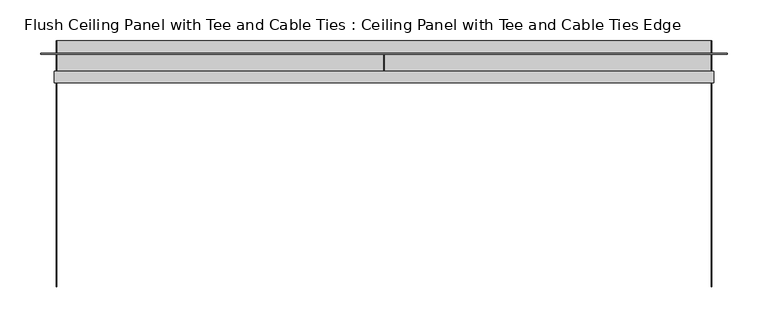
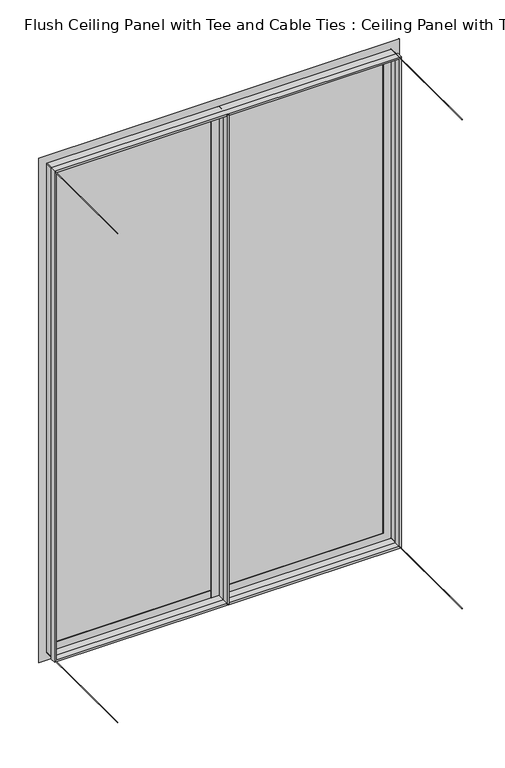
"""IFC4 building model written with IfcOpenShell, lengths in millimetres: plate geometry, Flush Ceiling Panel with Tee and Cable Ties : Ceiling Panel with Tee and Cable Ties Edge."""

import ifcopenshell
import ifcopenshell.guid

model = None  # the IFC model being written
_history = None  # IfcOwnerHistory: only IFC2X3 demands one
_inside = {}  # id of a spatial element -> (the spatial element, [elements in it])
_under = {}  # id of a project, library or spatial element -> (it, [spatial elements below it])
_declared = {}  # id of a project -> (the project, [libraries it declares])
_typed = {}  # id of a type object -> (the type object, [elements of that type])
_made_of = {}  # id of a material, layer set ... -> (it, [elements and type objects made of it])


def new_model(schema):
    """Start an empty IFC model of exactly this schema.

    Asked for "IFC4X3", IfcOpenShell would pick the latest addendum, in which some entities
    have other attributes; the version numbers below select the first issue.
    IFC2X3 requires an IfcOwnerHistory on every rooted entity: one is made here for all.
    """
    global model, _history
    if schema == "IFC4X3":
        model = ifcopenshell.file(schema_version=(4, 3, 0, 0))
    else:
        model = ifcopenshell.file(schema=schema)
    _inside.clear()
    _under.clear()
    _declared.clear()
    _typed.clear()
    _made_of.clear()
    _history = None
    if model.schema == "IFC2X3":
        org = make("IfcOrganization", Name="unknown")
        user = make(
            "IfcPersonAndOrganization",
            ThePerson=make("IfcPerson", FamilyName="unknown"),
            TheOrganization=org,
        )
        app = make(
            "IfcApplication",
            ApplicationDeveloper=org,
            Version="unknown",
            ApplicationFullName="unknown",
            ApplicationIdentifier="unknown",
        )
        _history = make(
            "IfcOwnerHistory",
            OwningUser=user,
            OwningApplication=app,
            ChangeAction="ADDED",
            CreationDate=0,
        )
    return model


def make(cls, **values):
    """One entity of the class cls with the attributes given. An attribute that is None is left unset."""
    return model.create_entity(
        cls, **{name: value for name, value in values.items() if value is not None}
    )


def rooted(cls, **values):
    """An entity with a GlobalId (a new one), such as an element, a storey or a relation."""
    return make(cls, GlobalId=ifcopenshell.guid.new(), OwnerHistory=_history, **values)


def si_unit(unit_type, name, prefix=None):
    """IfcSIUnit, for example si_unit("LENGTHUNIT", "METRE", prefix="MILLI")."""
    return make("IfcSIUnit", UnitType=unit_type, Prefix=prefix, Name=name)


def assignment(units):
    """IfcUnitAssignment: the units of a project."""
    return None if units is None else make("IfcUnitAssignment", Units=units)


def point(xyz):
    """IfcCartesianPoint."""
    return None if xyz is None else make("IfcCartesianPoint", Coordinates=xyz)


def direction(xyz):
    """IfcDirection."""
    return None if xyz is None else make("IfcDirection", DirectionRatios=xyz)


def frame(location, z_axis=None, x_axis=None):
    """IfcAxis2Placement3D, a coordinate frame: its origin and axes. An axis left out is left unset."""
    return make(
        "IfcAxis2Placement3D",
        Location=point(location),
        Axis=direction(z_axis),
        RefDirection=direction(x_axis),
    )


def frame_2d(location, x_axis=None):
    """IfcAxis2Placement2D, a coordinate frame in the plane: its origin and x axis."""
    return make(
        "IfcAxis2Placement2D", Location=point(location), RefDirection=direction(x_axis)
    )


def origin():
    """The frame at (0, 0, 0) with its axes left unset."""
    return frame((0.0, 0.0, 0.0))


def origin_with_axes():
    """The frame at (0, 0, 0) with the z axis (0, 0, 1) and the x axis (1, 0, 0) written out."""
    return frame((0.0, 0.0, 0.0), z_axis=(0.0, 0.0, 1.0), x_axis=(1.0, 0.0, 0.0))


def place(relative_to, where):
    """IfcLocalPlacement: puts the frame where relative to a parent placement (None: the world)."""
    return make(
        "IfcLocalPlacement", PlacementRelTo=relative_to, RelativePlacement=where
    )


def context(
    kind, dimensions, precision=None, world=None, true_north=None, identifier=None
):
    """IfcGeometricRepresentationContext, for example the 3D "Model" context."""
    return make(
        "IfcGeometricRepresentationContext",
        ContextIdentifier=identifier,
        ContextType=kind,
        CoordinateSpaceDimension=dimensions,
        Precision=precision,
        WorldCoordinateSystem=world,
        TrueNorth=true_north,
    )


def project(units=None, contexts=None):
    """IfcProject with its units and contexts."""
    return rooted(
        "IfcProject",
        Name="project",
        RepresentationContexts=contexts,
        UnitsInContext=assignment(units),
    )


def spatial(cls, under=None, at=None, **own):
    """A site, building, storey or space (cls), placed at a placement, below another one or the project."""
    s = rooted(cls, ObjectPlacement=at, **own)
    if under is not None:
        _under.setdefault(under.id(), (under, []))[1].append(s)
    return s


def polyline(points):
    """IfcPolyline through the points."""
    return make("IfcPolyline", Points=[point(p) for p in points])


def circle_curve(where, radius):
    """IfcCircle in the frame where."""
    return make("IfcCircle", Position=where, Radius=radius)


def trimmed(basis, trim1, trim2, sense, master):
    """IfcTrimmedCurve: the piece of a basis curve between two trims."""
    return make(
        "IfcTrimmedCurve",
        BasisCurve=basis,
        Trim1=trim1,
        Trim2=trim2,
        SenseAgreement=sense,
        MasterRepresentation=master,
    )


def segment(curve, same_sense, transition):
    """IfcCompositeCurveSegment."""
    return make(
        "IfcCompositeCurveSegment",
        Transition=transition,
        SameSense=same_sense,
        ParentCurve=curve,
    )


def composite_curve(segments, self_intersect=None):
    """IfcCompositeCurve: segments joined end to end."""
    return make("IfcCompositeCurve", Segments=segments, SelfIntersect=self_intersect)


def outline(outer, holes=None, kind="AREA"):
    """IfcArbitraryClosedProfileDef: a profile drawn as a closed curve; with holes, ...WithVoids."""
    if holes is None:
        return make("IfcArbitraryClosedProfileDef", ProfileType=kind, OuterCurve=outer)
    return make(
        "IfcArbitraryProfileDefWithVoids",
        ProfileType=kind,
        OuterCurve=outer,
        InnerCurves=holes,
    )


def extrude(swept, where, along, depth):
    """IfcExtrudedAreaSolid: the profile swept, set in the frame where, extruded along a direction by depth."""
    return make(
        "IfcExtrudedAreaSolid",
        SweptArea=swept,
        Position=where,
        ExtrudedDirection=direction(along),
        Depth=depth,
    )


def faces_of(points, faces, orient=None, outer=None):
    """IfcFace entities. A face is a list of loops; a loop is a list of indices into points, from 0.

    orient and outer hold one flag for each loop. By default every Orientation is true, the
    first loop of a face is its IfcFaceOuterBound and the others are IfcFaceBound.
    """
    made = []
    for i, loops in enumerate(faces):
        bounds = []
        for j, loop in enumerate(loops):
            is_outer = j == 0 if outer is None else outer[i][j]
            bounds.append(
                make(
                    "IfcFaceOuterBound" if is_outer else "IfcFaceBound",
                    Bound=make("IfcPolyLoop", Polygon=[points[k] for k in loop]),
                    Orientation=True if orient is None else orient[i][j],
                )
            )
        made.append(make("IfcFace", Bounds=bounds))
    return made


def faceted_brep(points, faces, orient=None, outer=None, voids=None):
    """IfcFacetedBrep: a solid bounded by flat faces; with voids (closed shells), ...WithVoids."""
    shared = [point(p) for p in points]
    hull = make("IfcClosedShell", CfsFaces=faces_of(shared, faces, orient, outer))
    if voids is None:
        return make("IfcFacetedBrep", Outer=hull)
    return make(
        "IfcFacetedBrepWithVoids",
        Outer=hull,
        Voids=[
            make(cls, CfsFaces=faces_of(shared, fs, o, b)) for cls, fs, o, b in voids
        ],
    )


def shape(context_of_items, identifier, shape_type, items):
    """IfcShapeRepresentation: the items that make up one representation, for example the "Body"."""
    return make(
        "IfcShapeRepresentation",
        ContextOfItems=context_of_items,
        RepresentationIdentifier=identifier,
        RepresentationType=shape_type,
        Items=items,
    )


def source(mapping_origin, context_of_items, identifier, shape_type, items):
    """IfcRepresentationMap: a shape defined once, which mapped items show again and again."""
    return make(
        "IfcRepresentationMap",
        MappingOrigin=mapping_origin,
        MappedRepresentation=shape(context_of_items, identifier, shape_type, items),
    )


def transform(
    local_origin,
    x_axis=None,
    y_axis=None,
    z_axis=None,
    scale=None,
    scale2=None,
    scale3=None,
    uniform=True,
):
    """IfcCartesianTransformationOperator3D, or its non-uniform kind. x_axis, y_axis, z_axis: its Axis1, 2, 3."""
    if uniform:
        return make(
            "IfcCartesianTransformationOperator3D",
            Axis1=direction(x_axis),
            Axis2=direction(y_axis),
            LocalOrigin=point(local_origin),
            Scale=scale,
            Axis3=direction(z_axis),
        )
    return make(
        "IfcCartesianTransformationOperator3DnonUniform",
        Axis1=direction(x_axis),
        Axis2=direction(y_axis),
        LocalOrigin=point(local_origin),
        Scale=scale,
        Axis3=direction(z_axis),
        Scale2=scale2,
        Scale3=scale3,
    )


def mapped(mapping_source, mapping_target):
    """IfcMappedItem: shows the shape of a source again, moved by a transform."""
    return make(
        "IfcMappedItem", MappingSource=mapping_source, MappingTarget=mapping_target
    )


def made_of(thing, what):
    """Note that an element or type object is made of a material, layer set ...; save() writes the relation."""
    if what is not None:
        _made_of.setdefault(what.id(), (what, []))[1].append(thing)
    return thing


def element(
    cls,
    number,
    at=None,
    inside=None,
    cuts=None,
    type_object=None,
    material=None,
    context=None,
    identifier="Body",
    shape_type=None,
    held_by="IfcProductDefinitionShape",
    body=None,
    shapes=None,
    **own,
):
    """One element of the class cls, such as IfcWall. Its Tag is "e" and its number.

    at: its placement. inside: the storey or other place that contains it. cuts: it is an
    opening in that element (IfcRelVoidsElement). A single representation is given by context,
    identifier, shape_type and body (its items); several are given by shapes. held_by: the class
    of the entity that holds the representations. save() writes the other relations.
    """
    e = rooted(cls, Tag="e%d" % number, ObjectPlacement=at, **own)
    if body is not None:
        shapes = [shape(context, identifier, shape_type, body)]
    if shapes is not None:
        e.Representation = make(held_by, Representations=shapes)
    if inside is not None:
        _inside.setdefault(inside.id(), (inside, []))[1].append(e)
    if cuts is not None:
        rooted(
            "IfcRelVoidsElement", RelatingBuildingElement=cuts, RelatedOpeningElement=e
        )
    if type_object is not None:
        _typed.setdefault(type_object.id(), (type_object, []))[1].append(e)
    return made_of(e, material)


def aggregate(whole, parts):
    """IfcRelAggregates: a whole, such as a stair, and the parts it consists of."""
    return rooted("IfcRelAggregates", RelatingObject=whole, RelatedObjects=parts)


def save(model, path):
    """Write the relations noted so far, then the file.

    IfcRelAggregates (storeys below a building ...), IfcRelContainedInSpatialStructure (elements
    in a storey), IfcRelDefinesByType, IfcRelAssociatesMaterial and IfcRelDeclares: one each for
    every whole, place, type object, material and project.
    """
    for whole, parts in _under.values():
        aggregate(whole, parts)
    for where, things in _inside.values():
        rooted(
            "IfcRelContainedInSpatialStructure",
            RelatedElements=things,
            RelatingStructure=where,
        )
    for kind, things in _typed.values():
        rooted("IfcRelDefinesByType", RelatedObjects=things, RelatingType=kind)
    for what, things in _made_of.values():
        rooted("IfcRelAssociatesMaterial", RelatedObjects=things, RelatingMaterial=what)
    for by, libraries in _declared.values():
        rooted("IfcRelDeclares", RelatingContext=by, RelatedDefinitions=libraries)
    model.write(path)


def flush_ceiling_panel_with_tee_and_cable_ties_ceiling_panel_486cffb7(model_context):
    return source(origin(), model_context, "Body", "SolidModel", [
        extrude(outline(composite_curve([segment(trimmed(circle_curve(frame_2d((1200.0, 399.9999998)), 0.5), [point((1200.0, 400.4999998))], [point((1200.0, 399.4999998))], False, "CARTESIAN"), True, "CONTINUOUS"), segment(trimmed(circle_curve(frame_2d((1200.0, 399.9999998)), 0.5), [point((1200.0, 399.4999998))], [point((1200.0, 400.4999998))], False, "CARTESIAN"), True, "CONTINUOUS")], self_intersect=False)), frame((0.0, -300.0, 0.0), z_axis=(0.0, 1.0, 0.0), x_axis=(0.0, 0.0, 1.0)), (0.0, 0.0, 1.0), 300.0),
        extrude(outline(composite_curve([segment(trimmed(circle_curve(frame_2d((1200.0, -399.9999998)), 0.5), [point((1200.0, -399.4999998))], [point((1200.0, -400.4999998))], False, "CARTESIAN"), True, "CONTINUOUS"), segment(trimmed(circle_curve(frame_2d((1200.0, -399.9999998)), 0.5), [point((1200.0, -400.4999998))], [point((1200.0, -399.4999998))], False, "CARTESIAN"), True, "CONTINUOUS")], self_intersect=False)), frame((0.0, -300.0, 0.0), z_axis=(0.0, 1.0, 0.0), x_axis=(0.0, 0.0, 1.0)), (0.0, 0.0, 1.0), 300.0),
        extrude(outline(composite_curve([segment(trimmed(circle_curve(frame_2d((0.0, 399.9999998)), 0.5), [point((0.0, 400.4999998))], [point((0.0, 399.4999998))], False, "CARTESIAN"), True, "CONTINUOUS"), segment(trimmed(circle_curve(frame_2d((0.0, 399.9999998)), 0.5), [point((0.0, 399.4999998))], [point((0.0, 400.4999998))], False, "CARTESIAN"), True, "CONTINUOUS")], self_intersect=False)), frame((0.0, -300.0, 0.0), z_axis=(0.0, 1.0, 0.0), x_axis=(0.0, 0.0, 1.0)), (0.0, 0.0, 1.0), 300.0),
        extrude(outline(composite_curve([segment(trimmed(circle_curve(frame_2d((0.0, -399.9999998)), 0.5), [point((0.0, -399.4999998))], [point((0.0, -400.4999998))], False, "CARTESIAN"), True, "CONTINUOUS"), segment(trimmed(circle_curve(frame_2d((0.0, -399.9999998)), 0.5), [point((0.0, -400.4999998))], [point((0.0, -399.4999998))], False, "CARTESIAN"), True, "CONTINUOUS")], self_intersect=False)), frame((0.0, -300.0, 0.0), z_axis=(0.0, 1.0, 0.0), x_axis=(0.0, 0.0, 1.0)), (0.0, 0.0, 1.0), 300.0),
        extrude(outline(polyline([(19.0, -15.0), (19.0, -16.0), (0.5, -16.0), (0.5, -37.0), (2.5, -37.0), (2.5, -51.0), (-2.5, -51.0), (-2.5, -37.0), (-0.5, -37.0), (-0.5, -16.0), (-19.0, -16.0), (-19.0, -15.0), (19.0, -15.0)])), origin_with_axes(), (0.0, 0.0, 1.0), 1200.0),
        faceted_brep([(380.9999998, -16.0, 1181.0), (380.9999998, -15.0, 1181.0), (380.9999998, -15.0, 19.0), (380.9999998, -16.0, 19.0), (399.4999998, -37.0, 1199.5), (399.4999998, -16.0, 1199.5), (399.4999998, -16.0, 0.5), (399.4999998, -37.0, 0.5), (397.4999998, -51.0, 1197.5), (397.4999998, -37.0, 1197.5), (397.4999998, -37.0, 2.5), (397.4999998, -51.0, 2.5), (402.4999998, -37.0, 1202.5), (402.4999998, -51.0, 1202.5), (402.4999998, -51.0, -2.5), (402.4999998, -37.0, -2.5), (400.4999998, -16.0, 1200.5), (400.4999998, -37.0, 1200.5), (400.4999998, -37.0, -0.5), (400.4999998, -16.0, -0.5), (418.9999998, -15.0, 1219.0), (418.9999998, -16.0, 1219.0), (418.9999998, -16.0, -19.0), (418.9999998, -15.0, -19.0), (-380.9999998, -15.0, 19.0), (-380.9999998, -16.0, 19.0), (-399.4999998, -16.0, 0.5), (-399.4999998, -37.0, 0.5), (-397.4999998, -37.0, 2.5), (-397.4999998, -51.0, 2.5), (-402.4999998, -51.0, -2.5), (-402.4999998, -37.0, -2.5), (-400.4999998, -37.0, -0.5), (-400.4999998, -16.0, -0.5), (-418.9999998, -16.0, -19.0), (-418.9999998, -15.0, -19.0), (-380.9999998, -15.0, 1181.0), (-380.9999998, -16.0, 1181.0), (-399.4999998, -16.0, 1199.5), (-399.4999998, -37.0, 1199.5), (-397.4999998, -37.0, 1197.5), (-397.4999998, -51.0, 1197.5), (-402.4999998, -51.0, 1202.5), (-402.4999998, -37.0, 1202.5), (-400.4999998, -37.0, 1200.5), (-400.4999998, -16.0, 1200.5), (-418.9999998, -16.0, 1219.0), (-418.9999998, -15.0, 1219.0)], [[[0, 1, 2, 3]], [[4, 5, 6, 7]], [[8, 9, 10, 11]], [[12, 13, 14, 15]], [[16, 17, 18, 19]], [[20, 21, 22, 23]], [[3, 2, 24, 25]], [[7, 6, 26, 27]], [[11, 10, 28, 29]], [[15, 14, 30, 31]], [[19, 18, 32, 33]], [[23, 22, 34, 35]], [[25, 24, 36, 37]], [[27, 26, 38, 39]], [[29, 28, 40, 41]], [[31, 30, 42, 43]], [[33, 32, 44, 45]], [[35, 34, 46, 47]], [[23, 35, 47, 20], [1, 36, 24, 2]], [[37, 36, 1, 0]], [[5, 38, 26, 6], [3, 25, 37, 0]], [[39, 38, 5, 4]], [[7, 27, 39, 4], [9, 40, 28, 10]], [[41, 40, 9, 8]], [[13, 42, 30, 14], [11, 29, 41, 8]], [[43, 42, 13, 12]], [[15, 31, 43, 12], [17, 44, 32, 18]], [[45, 44, 17, 16]], [[21, 46, 34, 22], [19, 33, 45, 16]], [[47, 46, 21, 20]]]),
        extrude(outline(polyline([(399.9999998, -15.0), (-399.9999998, -15.0), (-399.9999998, 0.0), (399.9999998, 0.0), (399.9999998, -15.0)])), origin_with_axes(), (0.0, 0.0, 1.0), 1200.0),
    ])


if __name__ == "__main__":
    model = new_model("IFC4")
    model_context = context("Model", 3, world=origin())
    ifc_project = project(units=[si_unit("LENGTHUNIT", "METRE", prefix="MILLI")], contexts=[model_context])
    site = spatial("IfcSite", under=ifc_project)
    building = spatial("IfcBuilding", under=site)
    placement = place(None, origin())
    flush_ceiling_panel_with_tee_and_cable_ties_ceiling_panel_shape = flush_ceiling_panel_with_tee_and_cable_ties_ceiling_panel_486cffb7(model_context)
    element("IfcPlate", 1, ObjectType="Flush Ceiling Panel with Tee and Cable Ties : Ceiling Panel with Tee and Cable Ties Edge", at=placement, inside=building, context=model_context, shape_type="MappedRepresentation", body=[
        mapped(flush_ceiling_panel_with_tee_and_cable_ties_ceiling_panel_shape, transform((0.0, 0.0, 0.0), x_axis=(1.0, 0.0, 0.0), y_axis=(0.0, 1.0, 0.0), z_axis=(0.0, 0.0, 1.0))),
    ])
    save(model, "model.ifc")
